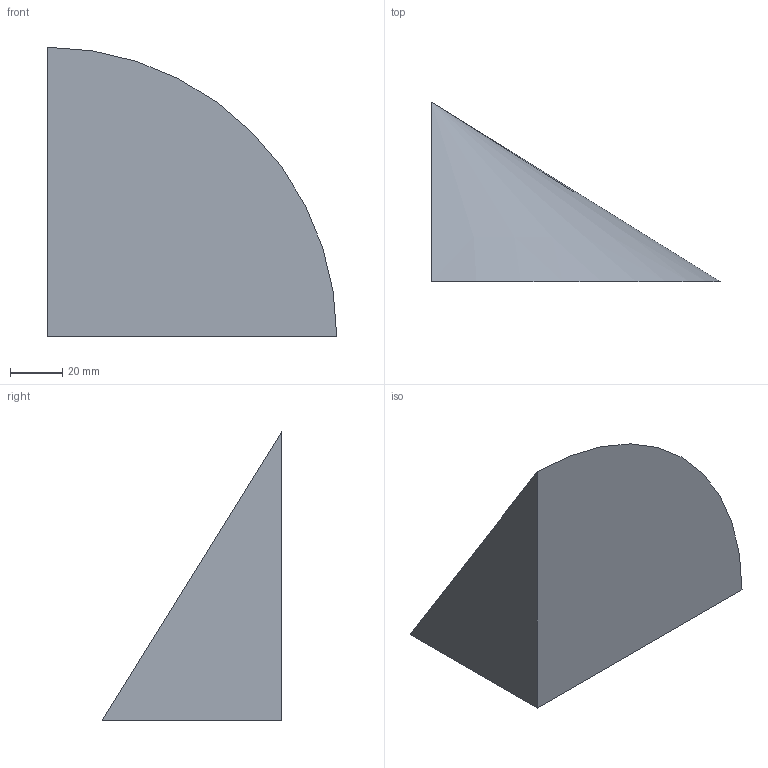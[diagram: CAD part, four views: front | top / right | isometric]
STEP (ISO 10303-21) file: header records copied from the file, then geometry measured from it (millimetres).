
FILE_DESCRIPTION(('CATIA V5 STEP Exchange'),'2;1');
FILE_NAME('C:\_Andres\UNIVERSIDAD\IQS\ASIGNATURAS\DAO\EXF\EXF-16172c\2inicio\Espinel_Roig_Ej07_v11.stp','2017-03-05T21:18:12+00:00',('none'),('none'),'CATIA Version 5-6 Release 2014 SP1 HF18','CATIA V5 STEP AP203','none');
FILE_SCHEMA(('CONFIG_CONTROL_DESIGN'));
Length unit declared in the file: millimetre
Products named in the file (1): Espinel_Roig_Ej07_v11
Bounding box: 111 x 69 x 111 mm (x, y, z)
Volume: 222568.5 mm3; surface area: 28730 mm2
Topology: 1 solids, 1 shells, 4 faces, 7 edges, 4 vertices
Faces by surface type: plane 3, cone 1
Entity records: 131 total; most frequent: CARTESIAN_POINT 15, DIRECTION 14, ORIENTED_EDGE 12, AXIS2_PLACEMENT_3D 6, EDGE_CURVE 6, VECTOR 5, LINE 5, ADVANCED_FACE 4
